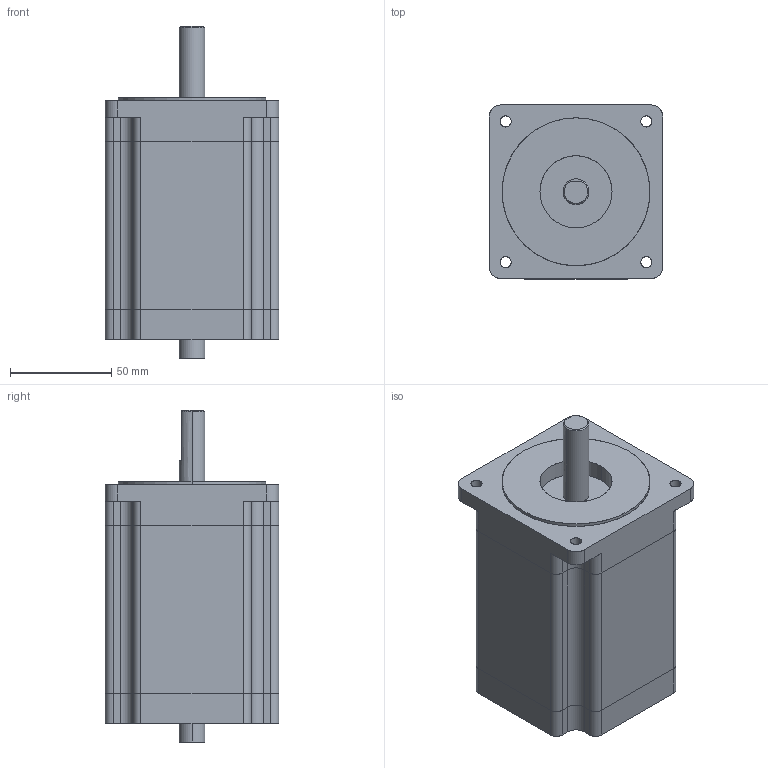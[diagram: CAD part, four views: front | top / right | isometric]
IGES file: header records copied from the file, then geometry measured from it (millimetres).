
Start section: SolidWorks IGES file using analytic representation for surfaces
Global section: file name: C:\Users\Christine\Documents\Arcus\Project #21\STM-34-3-1\STM-34-3-1.IGS; native system: SolidWorks 2008; preprocessor: SolidWorks 2008; author: Christine; date: 131028.215052; units: millimetre
Bounding box: 85.85 x 85.85 x 164 mm (x, y, z)
Surface area: 83540.3 mm2 (no closed solid volume)
Topology: 0 solids, 0 shells, 141 faces, 2208 edges, 2196 vertices
Faces by surface type: revolution 87, bspline 54
